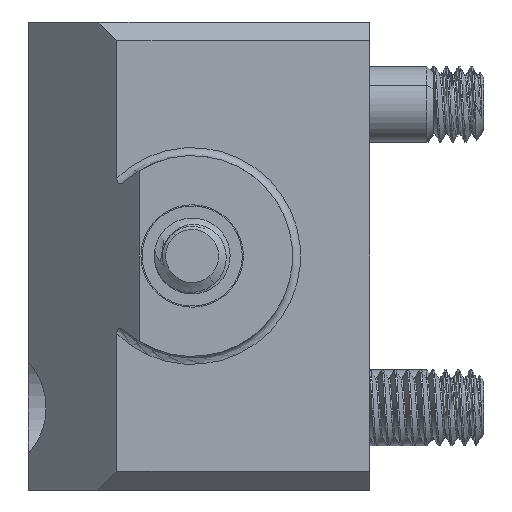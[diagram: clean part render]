
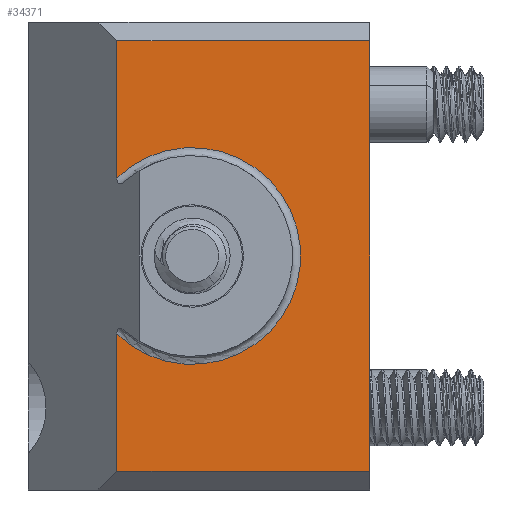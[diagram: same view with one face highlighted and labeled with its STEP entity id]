
A CAD part, left-side view. The second image highlights one B-rep face of the part: STEP entity #34371.
In plain terms, the highlighted planar face has unit normal (-1, 0, 0).
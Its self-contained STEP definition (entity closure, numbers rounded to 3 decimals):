
#743 = EDGE_CURVE ( 'NONE', #43221, #14742, #29418, .T. ) ;
#1847 = VECTOR ( 'NONE', #19422, 1000. ) ;
#2551 = CARTESIAN_POINT ( 'NONE',  ( -25.76, -13.5, 17. ) ) ;
#4352 = VECTOR ( 'NONE', #23672, 1000. ) ;
#5571 = LINE ( 'NONE', #39488, #1847 ) ;
#5601 = LINE ( 'NONE', #15685, #4352 ) ;
#5766 = FACE_OUTER_BOUND ( 'NONE', #45596, .T. ) ;
#5967 = VECTOR ( 'NONE', #10621, 1000. ) ;
#6363 = ORIENTED_EDGE ( 'NONE', *, *, #743, .T. ) ;
#7446 = CIRCLE ( 'NONE', #33089, 8.572 ) ;
#9180 = LINE ( 'NONE', #35103, #39724 ) ;
#10621 = DIRECTION ( 'NONE',  ( 0., 0., -1. ) ) ;
#13317 = CARTESIAN_POINT ( 'NONE',  ( -25.76, 13.5, 18.5 ) ) ;
#14742 = VERTEX_POINT ( 'NONE', #45623 ) ;
#15685 = CARTESIAN_POINT ( 'NONE',  ( -25.76, -13.5, 18.5 ) ) ;
#15728 = DIRECTION ( 'NONE',  ( 1., 0., 0. ) ) ;
#16009 = VERTEX_POINT ( 'NONE', #26818 ) ;
#17886 = EDGE_CURVE ( 'NONE', #22715, #14742, #5601, .T. ) ;
#18848 = EDGE_CURVE ( 'NONE', #22715, #16009, #9180, .T. ) ;
#19422 = DIRECTION ( 'NONE',  ( 0., 0., -1. ) ) ;
#20941 = CARTESIAN_POINT ( 'NONE',  ( -25.76, 13.5, -17. ) ) ;
#21282 = PLANE ( 'NONE',  #29514 ) ;
#22715 = VERTEX_POINT ( 'NONE', #2551 ) ;
#23672 = DIRECTION ( 'NONE',  ( 0., 0., -1. ) ) ;
#24282 = EDGE_CURVE ( 'NONE', #43686, #33282, #7446, .T. ) ;
#24653 = EDGE_CURVE ( 'NONE', #16009, #43686, #5571, .T. ) ;
#25330 = DIRECTION ( 'NONE',  ( 0., 1., 0. ) ) ;
#26818 = CARTESIAN_POINT ( 'NONE',  ( -25.76, 6.5, 17. ) ) ;
#27825 = DIRECTION ( 'NONE',  ( 0., -1., 0. ) ) ;
#29418 = LINE ( 'NONE', #20941, #50651 ) ;
#29514 = AXIS2_PLACEMENT_3D ( 'NONE', #13317, #49232, #25330 ) ;
#33089 = AXIS2_PLACEMENT_3D ( 'NONE', #39608, #15728, #43636 ) ;
#33282 = VERTEX_POINT ( 'NONE', #41825 ) ;
#34371 = ADVANCED_FACE ( 'NONE', ( #5766 ), #21282, .F. ) ;
#34491 = CARTESIAN_POINT ( 'NONE',  ( -25.76, 6.5, 18.5 ) ) ;
#35103 = CARTESIAN_POINT ( 'NONE',  ( -25.76, 6.5, 17. ) ) ;
#35150 = ORIENTED_EDGE ( 'NONE', *, *, #17886, .F. ) ;
#39488 = CARTESIAN_POINT ( 'NONE',  ( -25.76, 6.5, 18.5 ) ) ;
#39608 = CARTESIAN_POINT ( 'NONE',  ( -25.76, 0.546, 0. ) ) ;
#39724 = VECTOR ( 'NONE', #50990, 1000. ) ;
#39978 = ORIENTED_EDGE ( 'NONE', *, *, #18848, .T. ) ;
#40066 = CARTESIAN_POINT ( 'NONE',  ( -25.76, 6.5, 6.167 ) ) ;
#40136 = ORIENTED_EDGE ( 'NONE', *, *, #24653, .T. ) ;
#41825 = CARTESIAN_POINT ( 'NONE',  ( -25.76, 6.5, -6.167 ) ) ;
#43221 = VERTEX_POINT ( 'NONE', #45407 ) ;
#43636 = DIRECTION ( 'NONE',  ( 0., 1., 0. ) ) ;
#43686 = VERTEX_POINT ( 'NONE', #40066 ) ;
#45407 = CARTESIAN_POINT ( 'NONE',  ( -25.76, 6.5, -17. ) ) ;
#45596 = EDGE_LOOP ( 'NONE', ( #49309, #6363, #35150, #39978, #40136, #48235 ) ) ;
#45623 = CARTESIAN_POINT ( 'NONE',  ( -25.76, -13.5, -17. ) ) ;
#45816 = EDGE_CURVE ( 'NONE', #33282, #43221, #49619, .T. ) ;
#48235 = ORIENTED_EDGE ( 'NONE', *, *, #24282, .T. ) ;
#49232 = DIRECTION ( 'NONE',  ( 1., 0., 0. ) ) ;
#49309 = ORIENTED_EDGE ( 'NONE', *, *, #45816, .T. ) ;
#49619 = LINE ( 'NONE', #34491, #5967 ) ;
#50651 = VECTOR ( 'NONE', #27825, 1000. ) ;
#50990 = DIRECTION ( 'NONE',  ( 0., 1., 0. ) ) ;
